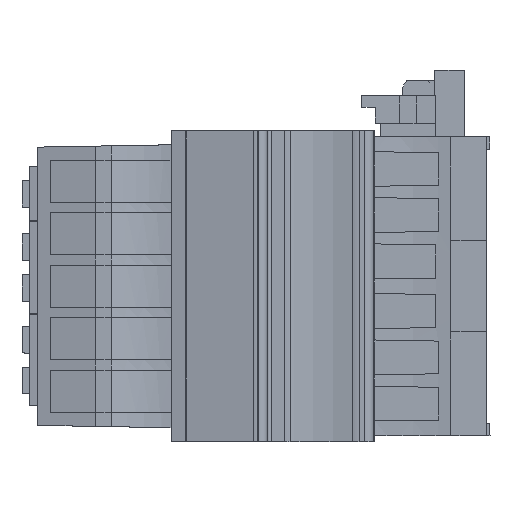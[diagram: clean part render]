
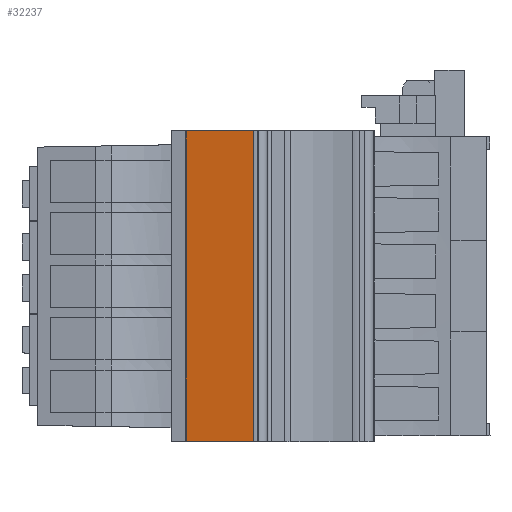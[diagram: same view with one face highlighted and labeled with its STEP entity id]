
A CAD part, left-side view. The second image highlights one B-rep face of the part: STEP entity #32237.
In plain terms, the highlighted planar face has unit normal (-0.981, 0.196, 0).
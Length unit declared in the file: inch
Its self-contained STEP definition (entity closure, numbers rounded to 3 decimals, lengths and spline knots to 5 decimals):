
#213=DIRECTION('',(0.196,0.981,0.));
#214=VECTOR('',#213,0.30606);
#215=CARTESIAN_POINT('',(-1.71878,0.79282,
0.));
#216=LINE('',#215,#214);
#377=DIRECTION('',(0.,0.,1.));
#378=VECTOR('',#377,0.06115);
#379=CARTESIAN_POINT('',(-1.65881,1.09295,1.3168));
#380=LINE('',#379,#378);
#381=DIRECTION('',(0.,0.,1.));
#382=VECTOR('',#381,1.25565);
#383=CARTESIAN_POINT('',(-1.65881,1.09295,0.06115));
#384=LINE('',#383,#382);
#521=DIRECTION('',(-0.196,-0.981,0.));
#522=VECTOR('',#521,0.30606);
#523=CARTESIAN_POINT('',(-1.65881,1.09295,1.37795));
#524=LINE('',#523,#522);
#3029=DIRECTION('',(0.,0.,-1.));
#3030=VECTOR('',#3029,1.37795);
#3031=CARTESIAN_POINT('',(-1.71878,0.79282,
1.37795));
#3032=LINE('',#3031,#3030);
#3033=DIRECTION('',(0.,0.,-1.));
#3034=VECTOR('',#3033,0.06115);
#3035=CARTESIAN_POINT('',(-1.65881,1.09295,
0.06115));
#3036=LINE('',#3035,#3034);
#21859=CARTESIAN_POINT('',(-1.71878,0.79282,
1.37795));
#21860=VERTEX_POINT('',#21859);
#21861=CARTESIAN_POINT('',(-1.65881,1.09295,
1.37795));
#21862=VERTEX_POINT('',#21861);
#22614=CARTESIAN_POINT('',(-1.65881,1.09295,
0.));
#22615=VERTEX_POINT('',#22614);
#22616=CARTESIAN_POINT('',(-1.71878,0.79282,
0.));
#22617=VERTEX_POINT('',#22616);
#22890=CARTESIAN_POINT('',(-1.65881,1.09295,
1.3168));
#22891=VERTEX_POINT('',#22890);
#22892=CARTESIAN_POINT('',(-1.65881,1.09295,
0.06115));
#22893=VERTEX_POINT('',#22892);
#32224=CARTESIAN_POINT('',(-1.71429,0.81532,
-0.30365));
#32225=DIRECTION('',(0.981,-0.196,0.));
#32226=DIRECTION('',(0.196,0.981,0.));
#32227=AXIS2_PLACEMENT_3D('',#32224,#32225,#32226);
#32228=PLANE('',#32227);
#32229=ORIENTED_EDGE('',*,*,#28820,.F.);
#32230=ORIENTED_EDGE('',*,*,#28818,.T.);
#32231=ORIENTED_EDGE('',*,*,#28816,.T.);
#32232=ORIENTED_EDGE('',*,*,#28898,.T.);
#32233=ORIENTED_EDGE('',*,*,#32219,.T.);
#32234=ORIENTED_EDGE('',*,*,#28698,.T.);
#32235=EDGE_LOOP('',(#32229,#32230,#32231,#32232,#32233,#32234));
#32236=FACE_OUTER_BOUND('',#32235,.F.);
#32237=ADVANCED_FACE('',(#32236),#32228,.F.);
#28698=EDGE_CURVE('',#22617,#22615,#216,.T.);
#28816=EDGE_CURVE('',#22891,#21862,#380,.T.);
#28818=EDGE_CURVE('',#22893,#22891,#384,.T.);
#28820=EDGE_CURVE('',#22893,#22615,#3036,.T.);
#28898=EDGE_CURVE('',#21862,#21860,#524,.T.);
#32219=EDGE_CURVE('',#21860,#22617,#3032,.T.);
